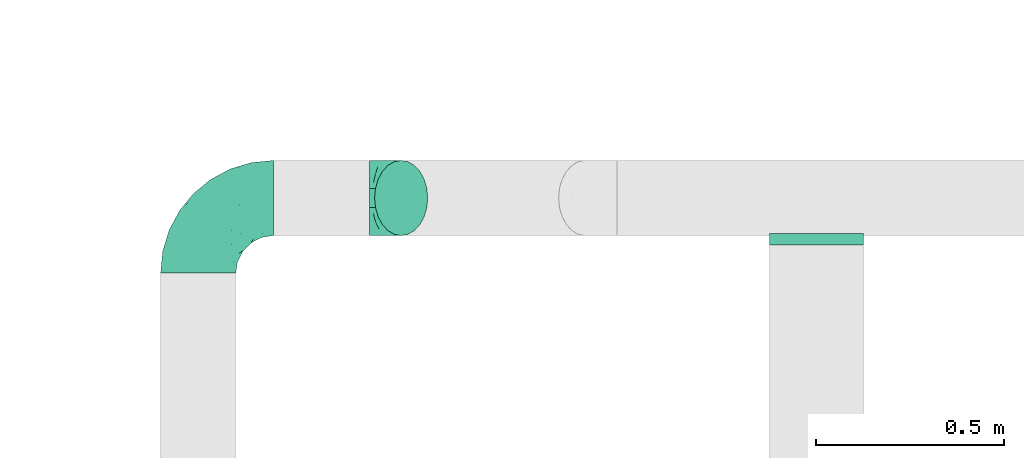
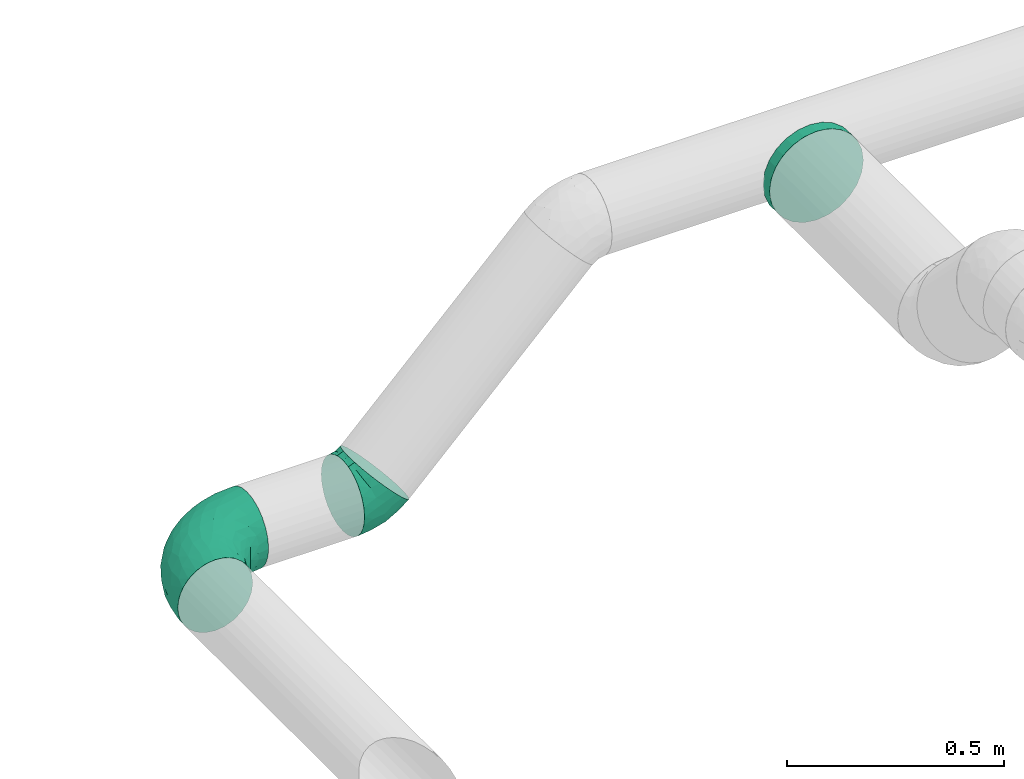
# One storey, part 28 of 31: 3 flow fittings.
"""IFC2X3 building model written with IfcOpenShell, lengths in millimetres."""

from ifc_helpers import new_model, entity, si_unit, converted_unit, derived_unit, direction, frame, origin_with_axes, place, context, subcontext, project, spatial, open_shell, surface_model, source, transform, mapped, type_object, element, save


model = new_model("IFC2X3")

# Units and contexts
model_context = context("Model", 3, precision=0.01, world=frame((0.0, 4.29681676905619e-09, 0.0)), true_north=direction((4.01073788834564e-13, 1.0)))
plan_context = context("Plan", 3, precision=0.01, world=frame((0.0, 4.29681676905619e-09, 0.0)), true_north=direction((4.01073788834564e-13, 1.0)))
body_context = subcontext(model_context, "Body", "Model", "MODEL_VIEW")
ifc_project = project(units=[converted_unit("PLANEANGLEUNIT", "DEGREE", entity("IfcPositiveLengthMeasure", 0.0174532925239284), si_unit("PLANEANGLEUNIT", "RADIAN"), dimensions=[0, 0, 0, 0, 0, 0, 0]), si_unit("AREAUNIT", "SQUARE_METRE"), si_unit("LENGTHUNIT", "METRE", prefix="MILLI"), si_unit("MASSUNIT", "GRAM", prefix="KILO"), si_unit("POWERUNIT", "WATT"), si_unit("PRESSUREUNIT", "PASCAL", prefix="KILO"), si_unit("FORCEUNIT", "NEWTON", prefix="KILO"), si_unit("ELECTRICVOLTAGEUNIT", "VOLT"), si_unit("ELECTRICCURRENTUNIT", "AMPERE"), si_unit("THERMODYNAMICTEMPERATUREUNIT", "DEGREE_CELSIUS"), si_unit("TIMEUNIT", "SECOND"), si_unit("VOLUMEUNIT", "CUBIC_METRE"), derived_unit("LINEARVELOCITYUNIT", [(si_unit("LENGTHUNIT", "METRE"), 1), (si_unit("TIMEUNIT", "SECOND"), -1)]), derived_unit("VOLUMETRICFLOWRATEUNIT", [(si_unit("VOLUMEUNIT", "CUBIC_METRE"), 1), (si_unit("TIMEUNIT", "SECOND"), -1)]), derived_unit("THERMALTRANSMITTANCEUNIT", [(si_unit("POWERUNIT", "WATT"), 1), (si_unit("THERMODYNAMICTEMPERATUREUNIT", "KELVIN"), -1), (si_unit("AREAUNIT", "SQUARE_METRE"), -1)]), derived_unit("SOUNDPRESSUREUNIT", [(si_unit("PRESSUREUNIT", "PASCAL"), 1)])], contexts=[model_context, plan_context])

# Site, building, storey
site_placement = place(None, frame((0.0, -4.29681676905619e-09, 0.0), z_axis=(0.0, 0.0, 1.0), x_axis=(1.0, 0.0, 0.0)))
site = spatial("IfcSite", under=ifc_project, at=site_placement, CompositionType="ELEMENT")
building_placement = place(site_placement, frame((0.0, 4.29681676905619e-09, 0.0), z_axis=(0.0, 0.0, 1.0), x_axis=(1.0, 0.0, 0.0)))
building = spatial("IfcBuilding", under=site, at=building_placement, Name="mc-building", CompositionType="ELEMENT")
storey_placement = place(building_placement, frame((0.0, 0.0, 210900.0), z_axis=(0.0, 0.0, 1.0), x_axis=(1.0, 0.0, 0.0)))
storey = spatial("IfcBuildingStorey", under=building, at=storey_placement, Name="Nivå F", CompositionType="ELEMENT", Elevation=210900.0)

# Flow fittings
duct_fitting_type_1 = type_object("IfcDuctFittingType", Name="magicirc_tapoutlet_001", PredefinedType="CONNECTOR")
shared_shape_1 = source(origin_with_axes(), body_context, "Body", "SurfaceModel", [
    surface_model("IfcShellBasedSurfaceModel", [(-6.096, 0.0, -125.0), (-6.096, -32.35238, -120.74073), (-6.096, 32.35238, -120.74073), (-6.096, 120.74073, 32.35238), (-6.096, 62.5, -108.25318), (-6.096, -125.0, 0.0), (-6.096, -120.74073, 32.35238), (-6.096, -88.38835, -88.38835), (-6.096, -62.5, -108.25318), (-6.096, -120.74073, -32.35238), (-6.096, -108.25318, -62.5), (-6.096, 120.74073, -32.35238), (-6.096, 108.25318, -62.5), (-6.096, 108.25318, 62.5), (-6.096, 62.5, 108.25318), (-6.096, 32.35238, 120.74073), (-6.096, -108.25318, 62.5), (-6.096, -88.38835, 88.38835), (-6.096, -32.35238, 120.74073), (-6.096, 0.0, 125.0), (-6.096, -62.5, 108.25318), (-6.096, 125.0, 0.0), (0.0, 0.0, 125.0), (0.0, 32.35238, 120.74073), (0.0, 62.5, 108.25318), (0.0, 88.38835, 88.38835), (-6.096, 88.38835, 88.38835), (0.0, 108.25318, 62.5), (0.0, 120.74073, 32.35238), (0.0, 125.0, 0.0), (0.0, 120.74073, -32.35238), (0.0, 108.25318, -62.5), (0.0, 88.38835, -88.38835), (-6.096, 88.38835, -88.38835), (0.0, 32.35238, -120.74073), (0.0, 0.0, -125.0), (0.0, 62.5, -108.25318), (0.0, -32.35238, -120.74073), (0.0, -62.5, -108.25318), (0.0, -88.38835, -88.38835), (0.0, -108.25318, -62.5), (0.0, -120.74073, -32.35238), (0.0, -125.0, 0.0), (0.0, -120.74073, 32.35238), (0.0, -108.25318, 62.5), (0.0, -88.38835, 88.38835), (0.0, -62.5, 108.25318), (0.0, -32.35238, 120.74073), (25.0, 120.74073, 32.35238), (25.0, 0.0, -125.0), (25.0, 32.35238, -120.74073), (25.0, 62.5, -108.25318), (25.0, 125.0, 0.0), (25.0, 88.38835, -88.38835), (25.0, 108.25318, -62.5), (25.0, -88.38835, -88.38835), (25.0, -120.74073, 32.35238), (25.0, -62.5, -108.25318), (25.0, -32.35238, -120.74073), (25.0, -108.25318, -62.5), (25.0, -120.74073, -32.35238), (25.0, -125.0, 0.0), (25.0, 120.74073, -32.35238), (25.0, 108.25318, 62.5), (25.0, 88.38835, 88.38835), (25.0, 32.35238, 120.74073), (25.0, 62.5, 108.25318), (25.0, -62.5, 108.25318), (25.0, -108.25318, 62.5), (25.0, -88.38835, 88.38835), (25.0, -32.35238, 120.74073), (25.0, 0.0, 125.0)], [open_shell([[[0, 1, 2]], [[2, 3, 4]], [[2, 5, 6]], [[7, 5, 8]], [[2, 1, 8]], [[9, 5, 10]], [[7, 10, 5]], [[8, 5, 2]], [[11, 12, 3]], [[13, 3, 2]], [[14, 2, 15]], [[16, 17, 2]], [[18, 19, 20]], [[17, 20, 19]], [[21, 11, 3]], [[19, 22, 23]], [[15, 23, 24]], [[19, 23, 15]], [[14, 25, 26]], [[14, 15, 24]], [[25, 14, 24]], [[13, 27, 28]], [[3, 28, 29]], [[26, 27, 13]], [[3, 13, 28]], [[21, 3, 29]], [[27, 26, 25]], [[21, 29, 30]], [[11, 30, 31]], [[21, 30, 11]], [[12, 32, 33]], [[12, 11, 31]], [[32, 12, 31]], [[34, 35, 0]], [[36, 34, 2]], [[33, 36, 4]], [[0, 2, 34]], [[36, 2, 4]], [[36, 33, 32]], [[0, 35, 37]], [[1, 37, 38]], [[0, 37, 1]], [[8, 39, 7]], [[8, 1, 38]], [[39, 8, 38]], [[10, 40, 41]], [[9, 41, 42]], [[7, 40, 10]], [[9, 10, 41]], [[5, 9, 42]], [[40, 7, 39]], [[5, 42, 43]], [[6, 43, 44]], [[5, 43, 6]], [[16, 45, 17]], [[16, 6, 44]], [[45, 16, 44]], [[20, 46, 47]], [[18, 47, 22]], [[17, 46, 20]], [[18, 20, 47]], [[19, 18, 22]], [[46, 17, 45]], [[12, 33, 3]], [[48, 49, 50]], [[51, 52, 50]], [[52, 53, 54]], [[51, 53, 52]], [[55, 49, 56]], [[49, 55, 57]], [[57, 58, 49]], [[59, 56, 60]], [[55, 56, 59]], [[56, 61, 60]], [[52, 54, 62]], [[48, 63, 49]], [[49, 63, 64]], [[65, 49, 66]], [[49, 64, 66]], [[67, 49, 65]], [[68, 56, 49]], [[69, 68, 49]], [[67, 69, 49]], [[70, 67, 65]], [[65, 71, 70]], [[50, 52, 48]], [[22, 71, 65]], [[23, 65, 66]], [[22, 65, 23]], [[24, 64, 25]], [[24, 23, 66]], [[64, 24, 66]], [[27, 63, 48]], [[28, 48, 52]], [[25, 63, 27]], [[28, 27, 48]], [[29, 28, 52]], [[63, 25, 64]], [[29, 52, 62]], [[30, 62, 54]], [[29, 62, 30]], [[31, 53, 32]], [[31, 30, 54]], [[53, 31, 54]], [[50, 49, 35]], [[51, 50, 34]], [[32, 51, 36]], [[35, 34, 50]], [[51, 34, 36]], [[51, 32, 53]], [[35, 49, 58]], [[37, 58, 57]], [[35, 58, 37]], [[38, 55, 39]], [[38, 37, 57]], [[55, 38, 57]], [[40, 59, 60]], [[41, 60, 61]], [[39, 59, 40]], [[41, 40, 60]], [[42, 41, 61]], [[59, 39, 55]], [[42, 61, 56]], [[43, 56, 68]], [[42, 56, 43]], [[44, 69, 45]], [[44, 43, 68]], [[69, 44, 68]], [[46, 67, 70]], [[47, 70, 71]], [[45, 67, 46]], [[47, 46, 70]], [[22, 47, 71]], [[67, 45, 69]], [[52, 49, 50]], [[59, 55, 56]], [[61, 60, 56]], [[63, 64, 49]], [[64, 66, 65]], [[65, 49, 64]], [[69, 49, 67]], [[65, 70, 67]], [[52, 48, 49]], [[3, 33, 4]], [[13, 2, 26]], [[14, 26, 2]], [[2, 19, 15]], [[2, 6, 16]], [[19, 2, 17]]])]),
])
flow_fitting_1_placement = place(storey_placement, frame((718845.42889, 442105.1766, 3525.0), z_axis=(0.0, 0.0, -1.0), x_axis=(0.0, -1.0, 0.0)))
element("IfcFlowFitting", 1, at=flow_fitting_1_placement, inside=storey, type_object=duct_fitting_type_1, Name="magicirc_tapoutlet_001", context=body_context, shape_type="MappedRepresentation", body=[
    mapped(shared_shape_1, transform((0.0, 0.0, 0.0), scale=1.0)),
])
duct_fitting_type_2 = type_object("IfcDuctFittingType", Name="magicirc_elbow_short_001", PredefinedType="BEND")
shared_shape_2 = source(origin_with_axes(), body_context, "Body", "SurfaceModel", [
    surface_model("IfcShellBasedSurfaceModel", [(-49.70565, 0.0, -100.0), (-49.70565, -70.71068, -70.71068), (-49.70565, 25.8819, -96.59259), (-49.70565, 50.0, -86.60254), (-49.70565, 70.71068, -70.71068), (-49.70565, 96.59259, -25.8819), (-49.70565, 86.60254, -50.0), (-49.70565, -86.60254, -50.0), (-49.70565, -50.0, -86.60254), (-49.70565, -25.8819, -96.59259), (-49.70565, -96.59259, -25.8819), (-49.70565, -100.0, 0.0), (-49.70565, 96.59259, 25.8819), (-49.70565, 25.8819, 96.59259), (-49.70565, 86.60254, 50.0), (-49.70565, 50.0, 86.60254), (-49.70565, 70.71068, 70.71068), (-49.70565, -25.8819, 96.59259), (-49.70565, -70.71068, 70.71068), (-49.70565, -50.0, 86.60254), (-49.70565, -86.60254, 50.0), (-49.70565, -96.59259, 25.8819), (-49.70565, 0.0, 100.0), (-49.70565, 100.0, 0.0), (16.84591, 53.44847, -96.59259), (85.1472, -14.85278, -70.71068), (35.14719, 35.14721, -100.0), (-14.85282, 85.14719, -70.71068), (-0.20816, 70.50254, -86.60254), (-26.09007, 96.38443, -50.0), (-33.1541, 103.44846, -25.8819), (105.85789, -35.56345, 0.0), (53.44846, 16.84594, -96.59259), (70.50254, -0.20812, -86.60254), (96.38445, -26.09002, -50.0), (103.44848, -33.15404, -25.8819), (-33.1541, 103.44846, 25.8819), (16.84591, 53.44847, 96.59259), (-14.85282, 85.14719, 70.71068), (-26.09007, 96.38443, 50.0), (-0.20816, 70.50254, 86.60254), (53.44846, 16.84594, 96.59259), (103.44848, -33.15404, 25.8819), (85.1472, -14.85278, 70.71068), (96.38445, -26.09002, 50.0), (70.50254, -0.20812, 86.60254), (35.14719, 35.14721, 100.0), (-35.56351, 105.85786, 0.0), (-6.65981, -78.69465, 55.32131), (-18.13184, -91.89202, 33.47276), (-24.86597, -97.5535, 0.0), (-6.78576, -95.77276, 0.0), (22.49479, -82.45996, 31.38069), (29.12437, -69.42701, 52.3949), (12.37742, -29.88175, 90.64522), (37.12406, -18.70606, 89.97421), (4.68854, -11.31914, 97.51858), (-18.231, -62.02139, 76.22982), (-13.02349, -39.47786, 89.97421), (22.87885, -55.23445, 71.73393), (-21.41192, 11.5723, 99.68416), (7.39001, 23.69873, 99.67584), (-15.97928, 38.57739, 94.78597), (-33.08074, 79.86395, 64.3352), (-23.56301, 62.37217, 82.35825), (34.48473, -83.25349, 0.0), (42.49433, -77.90549, 18.20625), (-42.05198, 101.52241, 0.0), (72.51984, -62.92329, 0.0), (86.56366, -51.39782, 0.0), (63.9186, -66.36327, 18.52111), (-38.64635, 93.30051, 41.23913), (50.71647, -68.4272, 35.42053), (77.79862, -52.1563, 33.47276), (60.35472, -50.93632, 55.3213), (28.07273, 6.98115, 98.51039), (56.747, -30.96448, 76.22981), (53.50229, -73.08839, 0.0), (13.84949, -89.51313, 0.0), (60.35473, -50.93631, -55.32131), (37.12406, -18.70605, -89.97421), (-21.98306, 11.532, -99.67584), (-38.64635, 93.30051, -41.23913), (-33.08075, 79.86395, -64.3352), (-27.44224, 60.76535, -82.35825), (-15.97928, 38.57738, -94.78597), (12.37743, -29.88176, -90.64522), (22.87886, -55.23445, -71.73393), (-13.02349, -39.47786, -89.97421), (6.95765, 23.32335, -99.68416), (77.79862, -52.1563, -33.47277), (-18.13183, -91.89201, -33.47277), (4.68854, -11.31915, -97.51858), (-18.231, -62.02139, -76.22982), (42.40179, -74.2142, -31.38069), (12.52339, -84.24729, -35.42053), (28.49829, -69.68634, -52.39491), (25.0395, -85.13552, -18.20625), (1.72867, -92.12319, -18.52111), (28.07273, 6.98115, -98.51039), (56.74701, -30.96447, -76.22982), (-24.78683, -14.914, 98.51039), (-24.78683, -14.91401, -98.51039), (-6.65981, -78.69465, -55.32131)], [open_shell([[[0, 1, 2]], [[3, 2, 4]], [[5, 6, 4]], [[7, 4, 2]], [[4, 7, 5]], [[8, 1, 9]], [[1, 0, 9]], [[10, 11, 7]], [[7, 2, 1]], [[7, 11, 5]], [[11, 12, 5]], [[13, 12, 11]], [[14, 12, 13]], [[13, 15, 16]], [[14, 13, 16]], [[17, 13, 11]], [[18, 19, 20]], [[21, 20, 19]], [[19, 17, 21]], [[21, 17, 11]], [[17, 22, 13]], [[12, 23, 5]], [[24, 25, 26]], [[27, 24, 28]], [[27, 29, 30]], [[27, 30, 24]], [[31, 24, 30]], [[32, 25, 33]], [[32, 26, 25]], [[34, 31, 35]], [[31, 34, 25]], [[24, 31, 25]], [[30, 36, 31]], [[36, 37, 31]], [[38, 36, 39]], [[40, 37, 36]], [[40, 36, 38]], [[31, 37, 41]], [[42, 43, 44]], [[42, 31, 43]], [[45, 43, 31]], [[41, 45, 31]], [[37, 46, 41]], [[36, 30, 47]], [[48, 20, 49]], [[50, 51, 49]], [[48, 52, 53]], [[54, 55, 56]], [[19, 57, 58]], [[58, 57, 59]], [[18, 20, 48]], [[13, 22, 60]], [[56, 61, 60]], [[17, 19, 58]], [[49, 20, 21]], [[15, 13, 62]], [[63, 64, 38]], [[63, 14, 16]], [[62, 13, 60]], [[19, 18, 57]], [[65, 66, 52]], [[67, 12, 36]], [[68, 69, 70]], [[67, 23, 12]], [[12, 14, 71]], [[72, 73, 74]], [[64, 15, 62]], [[48, 49, 52]], [[18, 48, 57]], [[41, 75, 55]], [[49, 21, 50]], [[74, 44, 43]], [[45, 41, 55]], [[54, 59, 55]], [[73, 44, 74]], [[43, 45, 76]], [[55, 76, 45]], [[73, 69, 42]], [[52, 72, 53]], [[41, 46, 75]], [[56, 75, 61]], [[63, 39, 71]], [[62, 61, 37]], [[36, 71, 39]], [[72, 70, 73]], [[47, 67, 36]], [[37, 40, 62]], [[46, 37, 61]], [[76, 59, 74]], [[38, 64, 40]], [[44, 73, 42]], [[40, 64, 62]], [[60, 61, 62]], [[15, 64, 16]], [[59, 76, 55]], [[66, 77, 70]], [[74, 43, 76]], [[59, 57, 48]], [[64, 63, 16]], [[38, 39, 63]], [[53, 74, 59]], [[21, 11, 50]], [[74, 53, 72]], [[48, 53, 59]], [[61, 75, 46]], [[55, 75, 56]], [[70, 72, 66]], [[12, 71, 36]], [[72, 52, 66]], [[49, 78, 52]], [[77, 66, 65]], [[77, 68, 70]], [[73, 70, 69]], [[69, 31, 42]], [[63, 71, 14]], [[56, 58, 54]], [[59, 54, 58]], [[78, 49, 51]], [[78, 65, 52]], [[25, 34, 79]], [[32, 33, 80]], [[0, 2, 81]], [[6, 82, 83]], [[28, 84, 27]], [[85, 3, 84]], [[3, 4, 84]], [[86, 87, 88]], [[24, 26, 89]], [[82, 5, 30]], [[90, 35, 69]], [[91, 50, 10]], [[92, 81, 89]], [[93, 8, 88]], [[94, 95, 96]], [[93, 1, 8]], [[7, 91, 10]], [[8, 9, 88]], [[97, 78, 98]], [[65, 97, 94]], [[5, 23, 67]], [[67, 47, 30]], [[85, 81, 2]], [[30, 29, 82]], [[28, 85, 84]], [[79, 94, 96]], [[3, 85, 2]], [[28, 24, 85]], [[6, 83, 4]], [[80, 86, 92]], [[85, 24, 89]], [[80, 92, 99]], [[89, 81, 85]], [[87, 80, 100]], [[80, 33, 100]], [[90, 34, 35]], [[26, 32, 99]], [[90, 79, 34]], [[83, 84, 4]], [[90, 69, 68]], [[51, 50, 98]], [[95, 98, 91]], [[94, 79, 90]], [[33, 25, 100]], [[99, 89, 26]], [[87, 100, 79]], [[30, 5, 67]], [[87, 93, 88]], [[25, 79, 100]], [[29, 27, 83]], [[84, 83, 27]], [[91, 98, 50]], [[79, 96, 87]], [[80, 99, 32]], [[89, 99, 92]], [[98, 95, 97]], [[83, 82, 29]], [[95, 94, 97]], [[90, 77, 94]], [[78, 97, 65]], [[78, 51, 98]], [[50, 11, 10]], [[5, 82, 6]], [[35, 31, 69]], [[87, 86, 80]], [[88, 92, 86]], [[77, 90, 68]], [[77, 65, 94]], [[56, 101, 58]], [[101, 22, 17]], [[101, 60, 22]], [[58, 101, 17]], [[60, 101, 56]], [[102, 9, 0]], [[103, 91, 7]], [[95, 91, 103]], [[1, 103, 7]], [[93, 87, 103]], [[103, 1, 93]], [[92, 102, 81]], [[102, 88, 9]], [[96, 103, 87]], [[103, 96, 95]], [[81, 102, 0]], [[88, 102, 92]]])]),
])
flow_fitting_2_placement = place(storey_placement, frame((717705.45797, 442205.1766, 2965.01186999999), z_axis=(0.0, 1.0, 0.0), x_axis=(-0.707106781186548, 0.0, -0.707106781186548)))
element("IfcFlowFitting", 2, at=flow_fitting_2_placement, inside=storey, type_object=duct_fitting_type_2, Name="magicirc_elbow_short_001", context=body_context, shape_type="MappedRepresentation", body=[
    mapped(shared_shape_2, transform((0.0, 0.0, 0.0), scale=1.0)),
])
duct_fitting_type_3 = type_object("IfcDuctFittingType", Name="magicirc_elbow_full_radius_001", PredefinedType="BEND")
shared_shape_3 = source(origin_with_axes(), body_context, "Body", "SurfaceModel", [
    surface_model("IfcShellBasedSurfaceModel", [(-200.0, 50.0, -86.60254), (-200.0, 25.8819, -96.59259), (-200.0, 70.71068, -70.71068), (-200.0, 96.59259, -25.8819), (-200.0, 86.60254, -50.0), (-200.0, -50.0, -86.60254), (-200.0, -70.71068, -70.71068), (-200.0, -25.8819, -96.59259), (-200.0, 0.0, -100.0), (-200.0, -86.60254, -50.0), (-200.0, -96.59259, -25.8819), (-200.0, -96.59259, 25.8819), (-200.0, -100.0, 0.0), (-200.0, 86.60254, 50.0), (-200.0, 96.59259, 25.8819), (-200.0, 100.0, 0.0), (-200.0, -50.0, 86.60254), (-200.0, 25.8819, 96.59259), (-200.0, 50.0, 86.60254), (-200.0, 70.71068, 70.71068), (-200.0, -86.60254, 50.0), (-200.0, -70.71068, 70.71068), (-200.0, -25.8819, 96.59259), (-200.0, 0.0, 100.0), (25.8819, 200.0, -96.59259), (70.71068, 200.0, -70.71068), (50.0, 200.0, -86.60254), (0.0, 200.0, -100.0), (96.59259, 200.0, -25.8819), (86.60254, 200.0, -50.0), (96.59259, 200.0, 25.8819), (70.71068, 200.0, 70.71068), (86.60254, 200.0, 50.0), (50.0, 200.0, 86.60254), (-25.8819, 200.0, 96.59259), (25.8819, 200.0, 96.59259), (-170.28345, -80.453, 57.20341), (-151.30505, -62.14272, 74.57098), (-141.47291, -94.23558, 0.0), (-152.48501, -91.13434, 31.26682), (-175.16033, -97.5535, 0.0), (49.44088, 33.32893, 0.0), (56.65771, 47.69157, 17.5513), (30.78646, 10.59845, 0.0), (-115.72747, -62.79147, 65.02361), (-110.24866, -47.46346, 77.46704), (-131.78251, -77.03572, 52.17296), (-155.84565, 81.73243, 67.52503), (-165.38682, 59.81194, 83.11685), (-153.53621, -15.46231, 97.89391), (-99.34826, -9.37473, 94.63603), (-109.04028, 19.17637, 99.9709), (0.0, 200.0, 100.0), (-11.41001, 147.58509, 99.90915), (-66.65717, -62.98288, 31.65851), (-19.65477, -37.28433, 19.69829), (-42.80044, -46.52394, 38.2888), (-76.76667, -58.58513, 50.26593), (-107.75087, -80.71677, 29.70656), (-170.73585, -40.65955, 90.5511), (-172.81551, 101.70087, 19.84455), (-146.92494, 108.70969, 32.98808), (-141.22148, 119.0983, 0.0), (-63.14521, 144.11081, 85.31109), (-80.51529, 161.84448, 66.62709), (-89.41257, 123.59035, 75.49114), (-59.28706, 175.69502, 82.02298), (-50.0, 200.0, 86.60254), (-70.71068, 200.0, 70.71068), (-159.40173, 10.55746, 99.80411), (77.16386, 85.19497, 0.0), (62.56216, 67.38452, 33.69402), (-96.59259, 200.0, 25.8819), (-101.70087, 172.81551, 19.84455), (-93.96462, 171.01, 43.43771), (-171.01, 93.96462, 43.43771), (-151.20277, 37.27353, 95.35782), (-100.76094, 141.8163, 52.73949), (-123.065, 123.065, 41.02461), (-115.71118, 115.71117, 58.92154), (-108.70969, 146.92494, 32.98808), (-169.09831, 104.89435, 0.0), (-126.3807, 68.32629, 87.09158), (-3.53309, 67.51081, 92.91692), (-29.40722, 29.40721, 91.09367), (0.78973, 37.96478, 81.45071), (-60.00062, -0.36077, 89.58959), (-67.88209, 21.58789, 97.54896), (62.32031, 154.13138, 74.86163), (-141.8163, 100.76094, 52.73949), (91.13434, 152.48501, 31.26682), (80.453, 170.28345, 57.20341), (-86.60254, 200.0, 50.0), (-18.49849, -12.30744, 60.90175), (8.80323, 19.6267, 65.08263), (-25.42255, 3.46809, 77.76258), (-74.03921, 114.7783, 87.77152), (-87.24231, 87.48345, 91.33971), (-52.29396, 97.96814, 97.88047), (97.5535, 175.16033, 0.0), (15.66986, 158.34417, 98.04921), (39.67143, 143.40046, 88.65468), (-104.89435, 169.09831, 0.0), (-119.0983, 141.22148, 0.0), (-79.31604, 55.69606, 99.29154), (50.31225, 117.34231, 77.16335), (77.03572, 131.78251, 52.17296), (-113.91527, 94.9934, 76.65605), (64.93177, 92.97178, 51.47516), (47.72556, 81.69016, 66.67609), (40.01044, 43.97718, 50.57869), (-17.45546, -26.87288, 41.03287), (-127.86769, 127.86769, 19.95139), (-100.0, 200.0, 0.0), (-59.26195, -63.30237, 0.0), (-33.32893, -49.44088, 0.0), (-15.13235, 108.44666, 99.8016), (9.03102, 110.97634, 96.23014), (-35.35458, 66.6809, 99.29493), (-36.40308, 160.4143, 94.8486), (-32.26105, 126.83648, 98.54453), (5.63455, -13.55537, 26.35365), (8.74012, 0.17058, 45.65263), (46.65777, 40.2329, 34.44568), (80.66195, 107.48302, 29.60457), (85.69972, 113.33393, 0.0), (28.17336, 90.6004, 84.77214), (-103.20436, 61.65595, 95.02282), (-132.43349, -38.40548, 87.83865), (-113.33393, -85.69972, 0.0), (-87.1495, -28.94235, 83.35483), (-47.7214, -39.47514, 54.58142), (-52.3084, 125.73797, 93.79051), (25.86889, 52.68176, 71.74074), (63.30237, 59.26195, 0.0), (94.23558, 141.47291, 0.0), (29.54521, 14.24018, 30.32032), (-85.19497, -77.16386, 0.0), (-50.98503, -24.63183, 71.83876), (-81.69017, -47.72556, 66.67609), (-10.59845, -30.78646, 0.0), (12.13203, -12.13203, 0.0), (100.0, 200.0, 0.0), (-160.4143, 36.40307, -94.8486), (-126.83648, 32.26105, -98.54453), (-147.58509, 11.41001, -99.90915), (-50.0, 200.0, -86.60254), (-59.81194, 165.3868, -83.11686), (-70.71068, 200.0, -70.71068), (-158.34417, -15.66986, -98.0492), (-110.97634, -9.03102, -96.23014), (12.30745, 18.4985, -60.90175), (-19.62669, -8.80321, -65.08265), (-3.46809, 25.42255, -77.76258), (-114.7783, 74.03921, -87.77153), (-87.48346, 87.2423, -91.33971), (-97.96814, 52.29396, -97.88047), (-172.81551, 101.70087, -19.84455), (13.55537, -5.63454, -26.35364), (-0.17055, -8.74011, -45.6526), (26.87289, 17.45547, -41.03286), (-146.92494, 108.70969, -32.98808), (-47.69157, -56.65771, -17.5513), (-123.06501, 123.065, -41.02461), (-127.86769, 127.86769, -19.95139), (-108.70969, 146.92494, -32.98808), (-175.69502, 59.28706, -82.02298), (-161.84448, 80.51529, -66.62709), (-144.11081, 63.14521, -85.31109), (62.98288, 66.65718, -31.65851), (-81.73243, 155.84565, -67.52503), (-86.60254, 200.0, -50.0), (-141.8163, 100.76093, -52.73949), (-171.01, 93.96462, -43.43771), (-55.69606, 79.31604, -99.29154), (-66.68089, 35.35458, -99.29493), (-152.48501, -91.13434, -31.26682), (-170.28345, -80.45301, -57.20341), (-92.97178, -64.93177, -51.47516), (-81.69017, -47.72556, -66.67608), (-43.97716, -40.01043, -50.57869), (-10.55746, 159.40173, -99.80411), (15.46231, 153.53621, -97.89391), (-154.13138, -62.32031, -74.86163), (-143.40046, -39.67143, -88.65468), (-37.27353, 151.20276, -95.35782), (-25.8819, 200.0, -96.59259), (-107.48302, -80.66195, -29.60457), (0.36078, 60.00061, -89.58959), (-29.40721, 29.40721, -91.09366), (-21.58789, 67.88208, -97.54896), (-100.76094, 141.8163, -52.73949), (-93.96462, 171.01, -43.43771), (-96.59259, 200.0, -25.8819), (-101.70087, 172.81551, -19.84455), (-19.17637, 109.04027, -99.9709), (-123.59035, 89.41257, -75.49114), (62.14272, 151.30505, -74.57098), (40.65955, 170.73585, -90.5511), (46.52395, 42.80044, -38.28881), (37.28435, 19.6548, -19.69829), (-68.3263, 126.38069, -87.09158), (-67.51081, 3.53309, -92.91692), (-37.96476, -0.78971, -81.45071), (58.58512, 76.76664, -50.26592), (-67.38452, -62.56216, -33.69402), (80.45301, 170.28345, -57.20341), (80.71677, 107.75087, -29.70656), (38.40548, 132.43348, -87.83865), (62.79147, 115.72747, -65.02361), (47.46347, 110.24866, -77.46703), (91.13434, 152.48501, -31.26682), (-40.2329, -46.65777, -34.44568), (-90.60041, -28.17337, -84.77214), (77.03572, 131.78251, -52.17296), (9.37473, 99.34825, -94.63603), (-117.34231, -50.31225, -77.16335), (-131.78251, -77.03572, -52.17296), (-94.99341, 113.91526, -76.65605), (-108.44666, 15.13234, -99.8016), (-61.65596, 103.20434, -95.02282), (28.94235, 87.1495, -83.35483), (39.47513, 47.72139, -54.58143), (-125.73797, 52.30839, -93.79051), (-52.68177, -25.86889, -71.74075), (-115.71118, 115.71117, -58.92154), (-14.24018, -29.54521, -30.32033), (24.63182, 50.98504, -71.83876), (47.72556, 81.69017, -66.67609)], [open_shell([[[0, 1, 2]], [[3, 4, 2]], [[5, 6, 7]], [[6, 8, 7]], [[9, 10, 6]], [[11, 10, 12]], [[11, 6, 10]], [[13, 14, 15]], [[16, 13, 6]], [[13, 17, 18]], [[19, 13, 18]], [[17, 13, 16]], [[20, 21, 11]], [[16, 11, 21]], [[16, 22, 17]], [[16, 6, 11]], [[17, 22, 23]], [[13, 15, 6]], [[24, 25, 26]], [[24, 27, 25]], [[25, 28, 29]], [[30, 31, 32]], [[31, 30, 33]], [[34, 35, 33]], [[21, 36, 37]], [[38, 39, 40]], [[41, 42, 43]], [[44, 45, 37]], [[36, 39, 46]], [[47, 19, 48]], [[49, 50, 51]], [[52, 34, 53]], [[54, 55, 56]], [[57, 58, 54]], [[16, 21, 37]], [[19, 18, 48]], [[16, 59, 22]], [[60, 61, 62]], [[63, 64, 65]], [[66, 67, 68]], [[19, 47, 13]], [[23, 69, 17]], [[42, 70, 71]], [[72, 73, 74]], [[59, 49, 22]], [[21, 20, 36]], [[75, 14, 13]], [[75, 61, 60]], [[76, 18, 17]], [[15, 14, 60]], [[77, 78, 79]], [[77, 74, 80]], [[60, 62, 81]], [[22, 49, 23]], [[82, 48, 76]], [[83, 84, 85]], [[54, 56, 57]], [[86, 84, 87]], [[33, 88, 31]], [[89, 61, 75]], [[30, 32, 90]], [[31, 91, 32]], [[64, 68, 92]], [[93, 94, 95]], [[96, 97, 98]], [[90, 99, 30]], [[35, 100, 101]], [[101, 88, 33]], [[102, 103, 73]], [[97, 104, 98]], [[105, 106, 88]], [[90, 32, 91]], [[107, 47, 82]], [[101, 33, 35]], [[108, 109, 110]], [[80, 73, 103]], [[56, 55, 111]], [[103, 62, 112]], [[102, 73, 113]], [[87, 104, 51]], [[114, 115, 54]], [[78, 112, 61]], [[116, 117, 53]], [[104, 118, 98]], [[64, 63, 66]], [[53, 119, 120]], [[121, 122, 111]], [[71, 123, 42]], [[34, 67, 119]], [[119, 53, 34]], [[117, 100, 53]], [[90, 124, 125]], [[126, 101, 117]], [[52, 100, 35]], [[69, 23, 49]], [[20, 11, 39]], [[127, 51, 104]], [[124, 90, 106]], [[108, 110, 71]], [[74, 92, 72]], [[64, 77, 65]], [[50, 49, 128]], [[69, 51, 76]], [[44, 37, 46]], [[59, 37, 128]], [[39, 11, 40]], [[39, 129, 58]], [[108, 124, 106]], [[74, 73, 80]], [[50, 130, 86]], [[50, 86, 87]], [[56, 111, 131]], [[58, 46, 39]], [[66, 119, 67]], [[120, 132, 98]], [[105, 88, 101]], [[91, 88, 106]], [[110, 109, 133]], [[55, 121, 111]], [[84, 95, 85]], [[84, 86, 95]], [[51, 69, 49]], [[76, 17, 69]], [[53, 100, 52]], [[101, 100, 117]], [[76, 48, 18]], [[47, 48, 82]], [[79, 107, 65]], [[97, 96, 107]], [[107, 79, 89]], [[97, 107, 82]], [[51, 127, 76]], [[132, 96, 98]], [[82, 127, 97]], [[51, 50, 87]], [[83, 118, 84]], [[116, 53, 120]], [[84, 118, 87]], [[104, 87, 118]], [[134, 70, 42]], [[125, 135, 90]], [[80, 78, 77]], [[64, 92, 74]], [[65, 77, 79]], [[64, 74, 77]], [[13, 47, 75]], [[89, 79, 78]], [[75, 47, 89]], [[107, 89, 47]], [[110, 136, 123]], [[54, 58, 137]], [[130, 50, 128]], [[95, 94, 85]], [[138, 86, 130]], [[131, 93, 138]], [[45, 130, 128]], [[130, 139, 138]], [[94, 133, 85]], [[83, 126, 117]], [[85, 133, 126]], [[83, 117, 116]], [[85, 126, 83]], [[126, 109, 105]], [[138, 93, 95]], [[122, 93, 111]], [[138, 95, 86]], [[131, 138, 139]], [[131, 139, 57]], [[93, 131, 111]], [[44, 57, 139]], [[58, 57, 46]], [[94, 122, 110]], [[126, 133, 109]], [[94, 110, 133]], [[123, 71, 110]], [[57, 56, 131]], [[54, 137, 114]], [[121, 140, 141]], [[43, 121, 141]], [[55, 140, 121]], [[122, 121, 136]], [[110, 122, 136]], [[93, 122, 94]], [[132, 119, 63]], [[116, 98, 118]], [[98, 116, 120]], [[83, 116, 118]], [[119, 132, 120]], [[132, 63, 96]], [[63, 65, 96]], [[107, 96, 65]], [[126, 105, 101]], [[105, 109, 108]], [[11, 12, 40]], [[99, 90, 135]], [[99, 142, 30]], [[113, 73, 72]], [[80, 103, 112]], [[89, 78, 61]], [[61, 112, 62]], [[80, 112, 78]], [[15, 60, 81]], [[75, 60, 14]], [[64, 66, 68]], [[119, 66, 63]], [[37, 59, 16]], [[49, 59, 128]], [[39, 36, 20]], [[37, 36, 46]], [[88, 91, 31]], [[90, 91, 106]], [[71, 70, 124]], [[124, 108, 71]], [[105, 108, 106]], [[57, 44, 46]], [[45, 44, 139]], [[130, 45, 139]], [[37, 45, 128]], [[54, 115, 55]], [[121, 43, 136]], [[76, 127, 82]], [[104, 97, 127]], [[124, 70, 125]], [[129, 39, 38]], [[129, 137, 58]], [[136, 43, 42]], [[136, 42, 123]], [[134, 42, 41]], [[55, 115, 140]], [[143, 144, 145]], [[146, 147, 148]], [[149, 145, 150]], [[151, 152, 153]], [[145, 1, 143]], [[154, 155, 156]], [[81, 157, 15]], [[158, 159, 160]], [[161, 157, 62]], [[115, 162, 140]], [[163, 164, 165]], [[166, 167, 168]], [[134, 41, 169]], [[148, 170, 171]], [[172, 173, 161]], [[174, 175, 156]], [[176, 9, 177]], [[178, 179, 180]], [[176, 40, 10]], [[181, 27, 182]], [[183, 5, 184]], [[1, 0, 143]], [[7, 184, 5]], [[185, 146, 186]], [[24, 182, 27]], [[176, 10, 9]], [[177, 9, 6]], [[176, 187, 129]], [[6, 5, 183]], [[149, 184, 7]], [[188, 189, 190]], [[155, 174, 156]], [[164, 62, 103]], [[191, 165, 192]], [[163, 165, 191]], [[192, 193, 171]], [[193, 194, 113]], [[190, 174, 195]], [[168, 167, 196]], [[194, 192, 165]], [[157, 173, 3]], [[197, 26, 25]], [[198, 182, 24]], [[170, 148, 147]], [[166, 0, 2]], [[27, 181, 186]], [[199, 200, 160]], [[185, 201, 147]], [[202, 189, 203]], [[24, 26, 198]], [[199, 169, 200]], [[169, 199, 204]], [[162, 137, 205]], [[25, 29, 206]], [[207, 169, 204]], [[81, 62, 157]], [[198, 197, 208]], [[7, 8, 149]], [[209, 210, 197]], [[167, 2, 4]], [[211, 99, 135]], [[205, 212, 162]], [[213, 184, 150]], [[211, 214, 206]], [[29, 28, 211]], [[215, 195, 182]], [[194, 165, 103]], [[8, 1, 145]], [[216, 217, 183]], [[194, 103, 102]], [[218, 170, 201]], [[219, 150, 145]], [[220, 195, 174]], [[187, 176, 217]], [[178, 180, 205]], [[173, 4, 3]], [[167, 172, 196]], [[206, 197, 25]], [[209, 197, 214]], [[215, 182, 208]], [[181, 195, 185]], [[211, 28, 99]], [[211, 125, 207]], [[178, 187, 217]], [[28, 142, 99]], [[215, 221, 188]], [[215, 188, 190]], [[199, 160, 222]], [[207, 214, 211]], [[166, 143, 0]], [[144, 223, 156]], [[216, 183, 184]], [[177, 183, 217]], [[180, 179, 224]], [[200, 158, 160]], [[189, 153, 203]], [[189, 188, 153]], [[195, 181, 182]], [[185, 186, 181]], [[145, 149, 8]], [[184, 149, 150]], [[185, 147, 146]], [[170, 147, 201]], [[225, 218, 196]], [[155, 154, 218]], [[218, 225, 191]], [[155, 218, 201]], [[195, 220, 185]], [[223, 154, 156]], [[201, 220, 155]], [[195, 215, 190]], [[202, 175, 189]], [[219, 145, 144]], [[189, 175, 190]], [[174, 190, 175]], [[114, 137, 162]], [[129, 38, 176]], [[161, 163, 172]], [[167, 4, 173]], [[196, 172, 225]], [[167, 173, 172]], [[171, 170, 192]], [[191, 225, 163]], [[192, 170, 191]], [[218, 191, 170]], [[180, 226, 212]], [[169, 207, 70]], [[221, 215, 208]], [[153, 152, 203]], [[227, 188, 221]], [[222, 151, 227]], [[210, 221, 208]], [[221, 228, 227]], [[152, 224, 203]], [[202, 213, 150]], [[203, 224, 213]], [[202, 150, 219]], [[203, 213, 202]], [[213, 179, 216]], [[227, 151, 153]], [[159, 151, 160]], [[227, 153, 188]], [[222, 227, 228]], [[222, 228, 204]], [[151, 222, 160]], [[209, 204, 228]], [[207, 204, 214]], [[152, 159, 180]], [[213, 224, 179]], [[152, 180, 224]], [[212, 205, 180]], [[204, 199, 222]], [[169, 70, 134]], [[158, 43, 141]], [[140, 158, 141]], [[200, 43, 158]], [[159, 158, 226]], [[180, 159, 226]], [[151, 159, 152]], [[223, 143, 168]], [[219, 156, 175]], [[156, 219, 144]], [[202, 219, 175]], [[143, 223, 144]], [[223, 168, 154]], [[168, 196, 154]], [[218, 154, 196]], [[213, 216, 184]], [[216, 179, 178]], [[40, 176, 38]], [[40, 12, 10]], [[173, 157, 161]], [[15, 157, 3]], [[172, 163, 225]], [[164, 161, 62]], [[165, 164, 103]], [[161, 164, 163]], [[113, 194, 102]], [[192, 194, 193]], [[167, 166, 2]], [[143, 166, 168]], [[197, 198, 26]], [[182, 198, 208]], [[211, 206, 29]], [[197, 206, 214]], [[183, 177, 6]], [[176, 177, 217]], [[205, 137, 187]], [[187, 178, 205]], [[216, 178, 217]], [[204, 209, 214]], [[210, 209, 228]], [[221, 210, 228]], [[197, 210, 208]], [[169, 41, 200]], [[158, 140, 226]], [[185, 220, 201]], [[174, 155, 220]], [[187, 137, 129]], [[125, 211, 135]], [[125, 70, 207]], [[226, 140, 162]], [[226, 162, 212]], [[114, 162, 115]], [[200, 41, 43]], [[8, 6, 1]], [[2, 1, 6]], [[2, 6, 15]], [[3, 2, 15]], [[193, 27, 186]], [[193, 186, 146]], [[148, 171, 193]], [[148, 193, 146]], [[27, 193, 25]], [[28, 25, 33]], [[30, 142, 28]], [[33, 25, 193]], [[193, 72, 33]], [[68, 72, 92]], [[67, 34, 72]], [[67, 72, 68]], [[33, 72, 34]], [[33, 30, 28]], [[34, 52, 35]], [[72, 193, 113]]])]),
])
flow_fitting_3_placement = place(storey_placement, frame((717200.44584, 442205.1766, 2965.01186999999), z_axis=(0.0, 0.0, 1.0), x_axis=(-1.0, 0.0, 0.0)))
element("IfcFlowFitting", 3, at=flow_fitting_3_placement, inside=storey, type_object=duct_fitting_type_3, Name="magicirc_elbow_full_radius_001", context=body_context, shape_type="MappedRepresentation", body=[
    mapped(shared_shape_3, transform((0.0, 0.0, 0.0), scale=1.0)),
])

save(model, "model.ifc")
